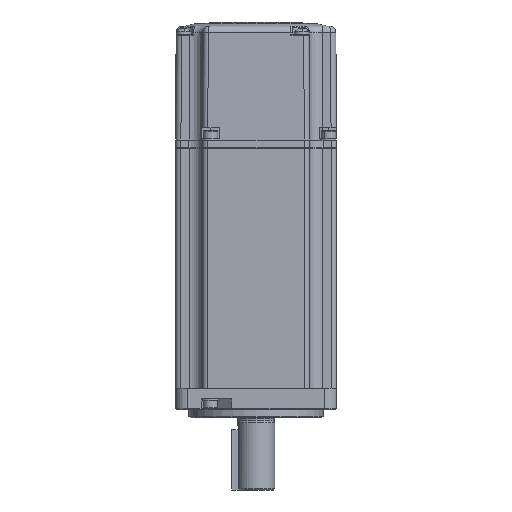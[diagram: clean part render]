
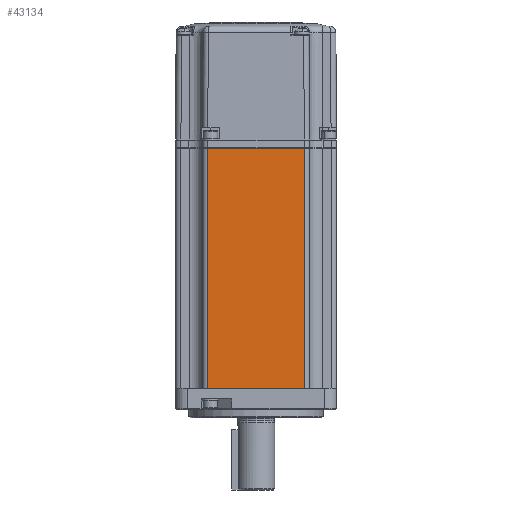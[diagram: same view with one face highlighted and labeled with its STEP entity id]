
A CAD part, front view. The second image highlights one B-rep face of the part: STEP entity #43134.
In plain terms, the highlighted planar face has unit normal (0, -1, 0).
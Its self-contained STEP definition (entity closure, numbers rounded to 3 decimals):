
#1760 = LINE ( 'NONE', #17089, #1766 ) ;
#1766 = VECTOR ( 'NONE', #17092, 1000. ) ;
#1781 = LINE ( 'NONE', #3406, #1793 ) ;
#1788 = LINE ( 'NONE', #3405, #1797 ) ;
#1793 = VECTOR ( 'NONE', #3400, 1000. ) ;
#1797 = VECTOR ( 'NONE', #3410, 1000. ) ;
#1802 = LINE ( 'NONE', #3423, #1807 ) ;
#1807 = VECTOR ( 'NONE', #3432, 1000. ) ;
#3400 = DIRECTION ( 'NONE',  ( 0., 0., -1. ) ) ;
#3405 = CARTESIAN_POINT ( 'NONE',  ( 30., -30., 7.25 ) ) ;
#3406 = CARTESIAN_POINT ( 'NONE',  ( -18., -30., 98. ) ) ;
#3410 = DIRECTION ( 'NONE',  ( -1., 0., 0. ) ) ;
#3423 = CARTESIAN_POINT ( 'NONE',  ( 18., -30., 98. ) ) ;
#3432 = DIRECTION ( 'NONE',  ( 0., 0., 1. ) ) ;
#14937 = ORIENTED_EDGE ( 'NONE', *, *, #45932, .F. ) ;
#14939 = ORIENTED_EDGE ( 'NONE', *, *, #45941, .T. ) ;
#14941 = ORIENTED_EDGE ( 'NONE', *, *, #45947, .T. ) ;
#14943 = ORIENTED_EDGE ( 'NONE', *, *, #45942, .F. ) ;
#17089 = CARTESIAN_POINT ( 'NONE',  ( -30., -30., 96.75 ) ) ;
#17092 = DIRECTION ( 'NONE',  ( 1., 0., 0. ) ) ;
#25066 = FACE_OUTER_BOUND ( 'NONE', #47751, .T. ) ;
#27324 = CARTESIAN_POINT ( 'NONE',  ( -20., -30., 98. ) ) ;
#27334 = PLANE ( 'NONE',  #29385 ) ;
#27338 = DIRECTION ( 'NONE',  ( 0., 1., 0. ) ) ;
#27340 = DIRECTION ( 'NONE',  ( -1., 0., 0. ) ) ;
#29385 = AXIS2_PLACEMENT_3D ( 'NONE', #27324, #27338, #27340 ) ;
#30100 = VERTEX_POINT ( 'NONE', #38296 ) ;
#30627 = VERTEX_POINT ( 'NONE', #37797 ) ;
#30676 = VERTEX_POINT ( 'NONE', #37449 ) ;
#30699 = VERTEX_POINT ( 'NONE', #37493 ) ;
#37449 = CARTESIAN_POINT ( 'NONE',  ( -18., -30., 96.75 ) ) ;
#37493 = CARTESIAN_POINT ( 'NONE',  ( 18., -30., 96.75 ) ) ;
#37797 = CARTESIAN_POINT ( 'NONE',  ( 18., -30., 7.25 ) ) ;
#38296 = CARTESIAN_POINT ( 'NONE',  ( -18., -30., 7.25 ) ) ;
#43134 = ADVANCED_FACE ( 'NONE', ( #25066 ), #27334, .F. ) ;
#45932 = EDGE_CURVE ( 'NONE', #30676, #30699, #1760, .T. ) ;
#45941 = EDGE_CURVE ( 'NONE', #30676, #30100, #1781, .T. ) ;
#45942 = EDGE_CURVE ( 'NONE', #30627, #30100, #1788, .T. ) ;
#45947 = EDGE_CURVE ( 'NONE', #30627, #30699, #1802, .T. ) ;
#47751 = EDGE_LOOP ( 'NONE', ( #14943, #14941, #14937, #14939 ) ) ;
